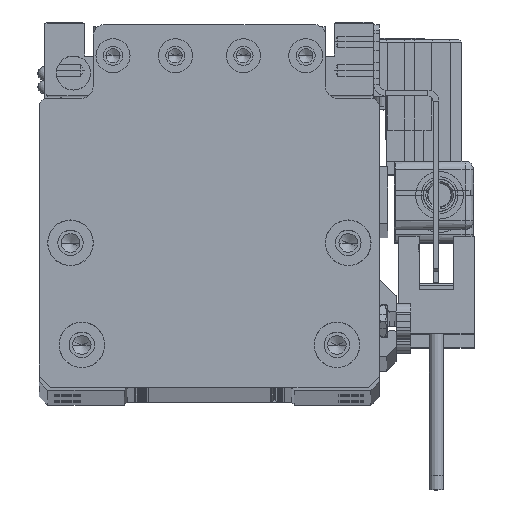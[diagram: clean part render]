
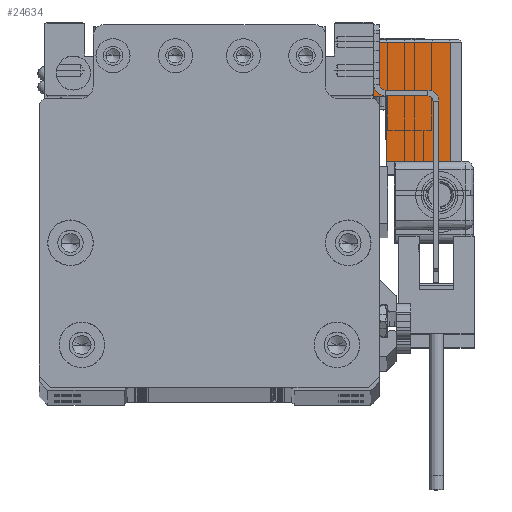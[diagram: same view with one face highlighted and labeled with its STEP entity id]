
A CAD part, top view. The second image highlights one B-rep face of the part: STEP entity #24634.
In plain terms, the highlighted planar face has unit normal (0, 0, 1) as drawn and (-1, 0, 0) by its records, which use the part's own axes.
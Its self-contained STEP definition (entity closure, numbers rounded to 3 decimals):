
#1173 = FACE_OUTER_BOUND ( 'NONE', #7346, .T. ) ;
#3872 = CARTESIAN_POINT ( 'NONE',  ( -17., -10.75, -2. ) ) ;
#7346 = EDGE_LOOP ( 'NONE', ( #63490, #71759, #48341, #58513, #13094, #55956 ) ) ;
#9049 = LINE ( 'NONE', #60049, #55132 ) ;
#12345 = VECTOR ( 'NONE', #33153, 1000. ) ;
#13094 = ORIENTED_EDGE ( 'NONE', *, *, #64032, .T. ) ;
#14120 = DIRECTION ( 'NONE',  ( -1., 0., 0. ) ) ;
#21082 = VERTEX_POINT ( 'NONE', #59512 ) ;
#22139 = EDGE_CURVE ( 'NONE', #21082, #74241, #35789, .T. ) ;
#22933 = VERTEX_POINT ( 'NONE', #61505 ) ;
#24634 = ADVANCED_FACE ( 'NONE', ( #1173 ), #34584, .T. ) ;
#25234 = EDGE_CURVE ( 'NONE', #74241, #69880, #48789, .T. ) ;
#27470 = VERTEX_POINT ( 'NONE', #50262 ) ;
#29487 = EDGE_CURVE ( 'NONE', #55232, #21082, #81148, .T. ) ;
#31933 = CARTESIAN_POINT ( 'NONE',  ( -17., -10.75, -15.5 ) ) ;
#33153 = DIRECTION ( 'NONE',  ( 0., 0., 1. ) ) ;
#34297 = EDGE_CURVE ( 'NONE', #69880, #22933, #34912, .T. ) ;
#34584 = PLANE ( 'NONE',  #57552 ) ;
#34912 = LINE ( 'NONE', #35320, #82650 ) ;
#35320 = CARTESIAN_POINT ( 'NONE',  ( -17., 0.75, -15.5 ) ) ;
#35789 = LINE ( 'NONE', #80521, #54632 ) ;
#41428 = VECTOR ( 'NONE', #55442, 1000. ) ;
#48341 = ORIENTED_EDGE ( 'NONE', *, *, #25234, .T. ) ;
#48789 = LINE ( 'NONE', #55847, #41428 ) ;
#50262 = CARTESIAN_POINT ( 'NONE',  ( -17., -10.75, -13.3 ) ) ;
#50764 = LINE ( 'NONE', #31933, #12345 ) ;
#51897 = CARTESIAN_POINT ( 'NONE',  ( -17., 10.25, -15.5 ) ) ;
#52538 = DIRECTION ( 'NONE',  ( 0., -1., 0. ) ) ;
#53010 = CARTESIAN_POINT ( 'NONE',  ( -17., 0.75, -15.5 ) ) ;
#53392 = DIRECTION ( 'NONE',  ( 0., 0., 1. ) ) ;
#54632 = VECTOR ( 'NONE', #61289, 1000. ) ;
#55132 = VECTOR ( 'NONE', #52538, 1000. ) ;
#55232 = VERTEX_POINT ( 'NONE', #3872 ) ;
#55442 = DIRECTION ( 'NONE',  ( 0., -1., 0. ) ) ;
#55847 = CARTESIAN_POINT ( 'NONE',  ( -17., -10.75, -15.5 ) ) ;
#55956 = ORIENTED_EDGE ( 'NONE', *, *, #76586, .T. ) ;
#57552 = AXIS2_PLACEMENT_3D ( 'NONE', #71389, #14120, #53392 ) ;
#58513 = ORIENTED_EDGE ( 'NONE', *, *, #34297, .T. ) ;
#59512 = CARTESIAN_POINT ( 'NONE',  ( -17., 10.25, -2. ) ) ;
#60049 = CARTESIAN_POINT ( 'NONE',  ( -17., -10.75, -13.3 ) ) ;
#60409 = DIRECTION ( 'NONE',  ( 0., 0., 1. ) ) ;
#61289 = DIRECTION ( 'NONE',  ( 0., 0., -1. ) ) ;
#61505 = CARTESIAN_POINT ( 'NONE',  ( -17., 0.75, -13.3 ) ) ;
#62754 = CARTESIAN_POINT ( 'NONE',  ( -17., 10.75, -2. ) ) ;
#63265 = VECTOR ( 'NONE', #69439, 1000. ) ;
#63490 = ORIENTED_EDGE ( 'NONE', *, *, #29487, .T. ) ;
#64032 = EDGE_CURVE ( 'NONE', #22933, #27470, #9049, .T. ) ;
#69439 = DIRECTION ( 'NONE',  ( 0., 1., 0. ) ) ;
#69880 = VERTEX_POINT ( 'NONE', #53010 ) ;
#71389 = CARTESIAN_POINT ( 'NONE',  ( -17., -10.75, -15.5 ) ) ;
#71759 = ORIENTED_EDGE ( 'NONE', *, *, #22139, .T. ) ;
#74241 = VERTEX_POINT ( 'NONE', #51897 ) ;
#76586 = EDGE_CURVE ( 'NONE', #27470, #55232, #50764, .T. ) ;
#80521 = CARTESIAN_POINT ( 'NONE',  ( -17., 10.25, -15.5 ) ) ;
#81148 = LINE ( 'NONE', #62754, #63265 ) ;
#82650 = VECTOR ( 'NONE', #60409, 1000. ) ;
